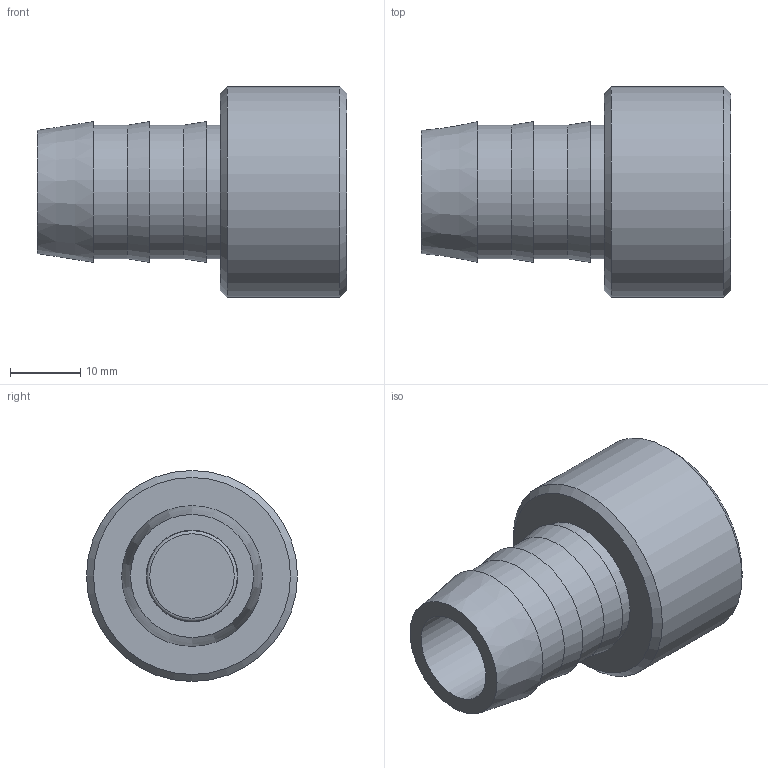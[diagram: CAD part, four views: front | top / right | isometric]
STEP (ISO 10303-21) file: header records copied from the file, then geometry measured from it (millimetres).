
FILE_DESCRIPTION( ( 'STEP AP203' ), '1' );
FILE_NAME( 'C:/Temp/Ganter_Step_05_03_2020/data/3_5/gn880_1/gn880_1_ans/gn880_1_a/Connector piece withot drain hose GN 880.1-26-A.stp', '2020-03-12T13:42:24', ( 'License CC BY-ND 4.0' ), ( 'CADENAS' ), ' ', 'PARTsolutions', ' ' );
FILE_SCHEMA( ( 'CONFIG_CONTROL_DESIGN' ) );
Length unit declared in the file: millimetre
Products named in the file (3): Connector piece withot drain hose GN 880.1-26-A; _Anschlussstueck ohne Ablassschlauch GN 880.1-26-A_a; _Anschlussstueck ohne Ablassschlauch GN 880.1-26-A_dk
Assembly tree (2 placements, depth 2):
  Connector piece withot drain hose GN 880.1-26-A
    _Anschlussstueck ohne Ablassschlauch GN 880.1-26-A_a
    _Anschlussstueck ohne Ablassschlauch GN 880.1-26-A_dk
Bounding box: 44 x 30 x 30 mm (x, y, z)
Volume: 12208.7 mm3; surface area: 9129.6 mm2
Topology: 2 solids, 2 shells, 37 faces, 57 edges, 36 vertices
Faces by surface type: plane 16, cylinder 13, cone 6, torus 2
Full cylindrical faces by diameter (mm): 11.5 x1, 12.9 x1, 13 x3, 19 x5, 22 x1, 24.376 x1, 30 x1
Entity records: 850 total; most frequent: DIRECTION 152, CARTESIAN_POINT 113, AXIS2_PLACEMENT_3D 76, EDGE_LOOP 72, ORIENTED_EDGE 72, FACE_OUTER_BOUND 52, ADVANCED_FACE 37, VERTEX_POINT 37
